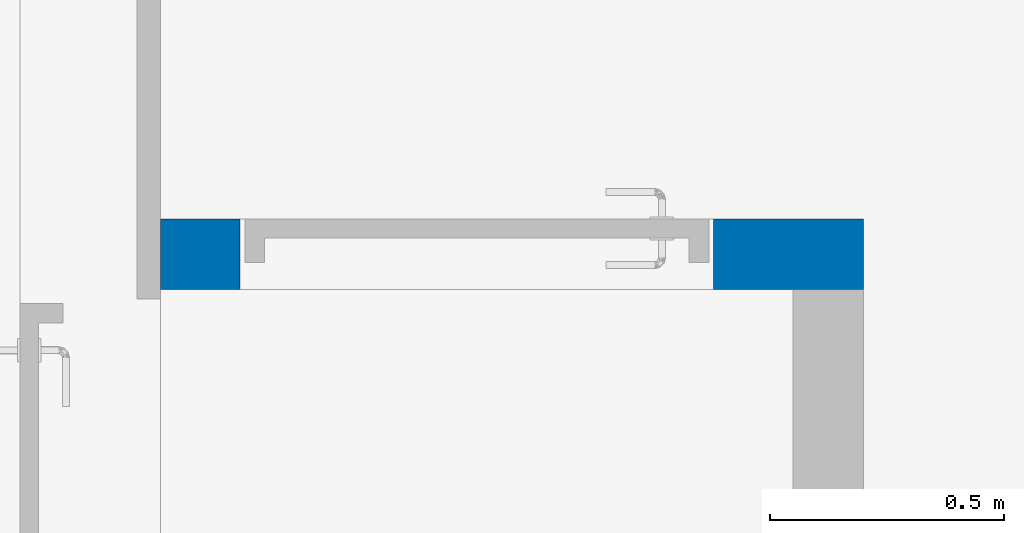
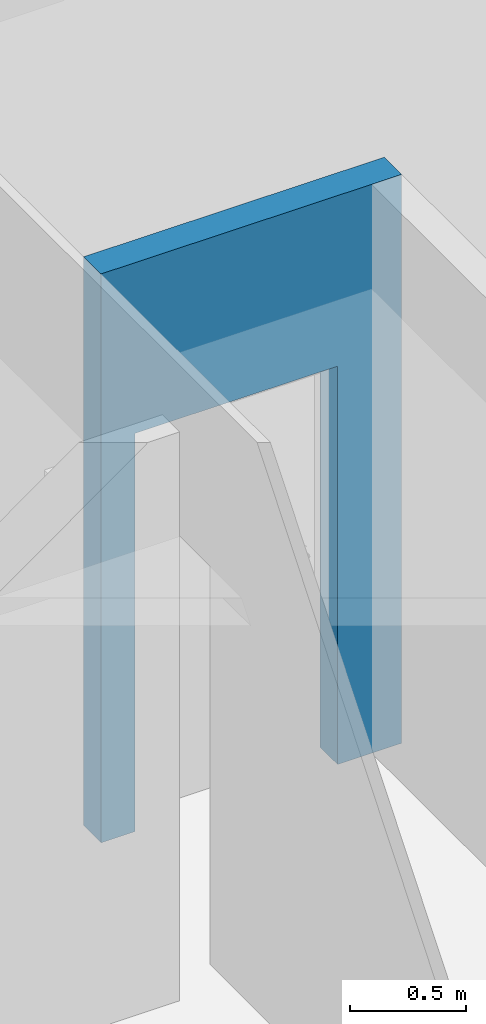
# One storey, part 35 of 58: 1 wall, 1 opening.
"""IFC2X3 building model written with IfcOpenShell, lengths in millimetres."""

from ifc_helpers import new_model, entity, si_unit, converted_unit, derived_unit, direction, frame, frame_2d, origin, place, context, subcontext, project, spatial, rectangle, extrude, material, layer, layer_set, layer_usage, type_object, element, save


model = new_model("IFC2X3")

# Units and contexts
model_context = context("Model", 3, precision=0.01, world=origin(), true_north=direction((0.7716245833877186, 0.6360782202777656)))
body_context = subcontext(model_context, "Body", "Model", "MODEL_VIEW")
ifc_project = project(units=[si_unit("LENGTHUNIT", "METRE", prefix="MILLI"), si_unit("AREAUNIT", "SQUARE_METRE"), converted_unit("PLANEANGLEUNIT", "DEGREE", entity("IfcPlaneAngleMeasure", 0.017453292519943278), si_unit("PLANEANGLEUNIT", "RADIAN"), dimensions=[0, 0, 0, 0, 0, 0, 0]), derived_unit("THERMALTRANSMITTANCEUNIT", [(si_unit("MASSUNIT", "GRAM", prefix="KILO"), 1), (si_unit("THERMODYNAMICTEMPERATUREUNIT", "KELVIN"), -1), (si_unit("TIMEUNIT", "SECOND"), -3)])], contexts=[model_context])

# Site, building, storey
site_placement = place(None, origin())
site = spatial("IfcSite", under=ifc_project, at=site_placement, Name="Default", CompositionType="ELEMENT")
building_placement = place(site_placement, origin())
building = spatial("IfcBuilding", under=site, at=building_placement, CompositionType="ELEMENT")
storey_placement = place(building_placement, frame((0.0, 0.0, 31140.0)))
storey = spatial("IfcBuildingStorey", under=building, at=storey_placement, Name="PLAN U1", CompositionType="ELEMENT", Elevation=31140.000000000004)

# Wall, opening
ifc_material = material(Name="Eksist. vegg")
ifc_layer = layer(ifc_material, 150.0)
ifc_layer_set = layer_set([ifc_layer], Name="Basic Wall:240 Eksist. Innervegg 150 mm")
ifc_layer_usage = layer_usage(ifc_layer_set, "AXIS2", "NEGATIVE", 75.0)
wall_type = type_object("IfcWallType", Name="Basic Wall:240 Eksist. Innervegg 150 mm", PredefinedType="STANDARD", material=ifc_layer_set)
wall_placement = place(storey_placement, frame((270917.924446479, 68665.25555007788, 0.0)))
wall = element("IfcWallStandardCase", 1, at=wall_placement, inside=storey, type_object=wall_type, material=ifc_layer_usage, Name="Basic Wall:240 Eksist. Innervegg 150 mm", ObjectType="Basic Wall:240 Eksist. Innervegg 150 mm", context=body_context, shape_type="SweptSolid", body=[
    extrude(rectangle(XDim=1500.0000000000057, YDim=150.00000000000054, at=frame_2d((750.0000000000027, 0.0), x_axis=(1.0, 0.0))), origin(), (0.0, 0.0, 1.0), 2999.9999999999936),
])
opening_placement = place(wall_placement, frame((170.0, -75.0, 0.0)))
element("IfcOpeningElement", 2, at=opening_placement, cuts=wall, Name="Enfløyet:2441 Innvendig 10x21M:1", ObjectType="Opening", context=body_context, shape_type="SweptSolid", body=[
    extrude(rectangle(XDim=2100.0, YDim=1009.9999999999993, at=frame_2d((1049.9999999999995, 505.0000000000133), x_axis=(1.0, 0.0))), frame((0.0, 0.0, 0.0), z_axis=(0.0, 1.0, 0.0), x_axis=(0.0, 0.0, 1.0)), (0.0, 0.0, 1.0), 150.0),
])

save(model, "model.ifc")
